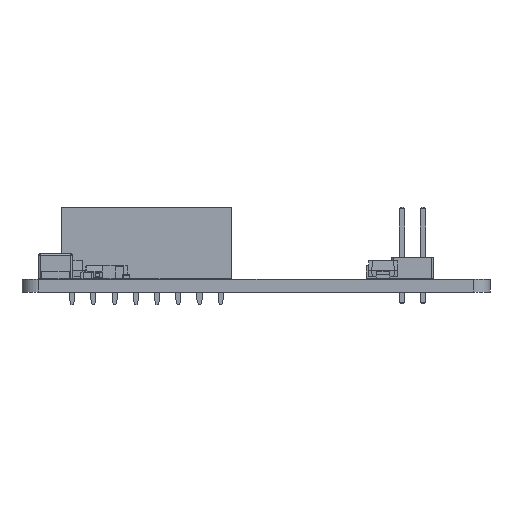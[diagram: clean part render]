
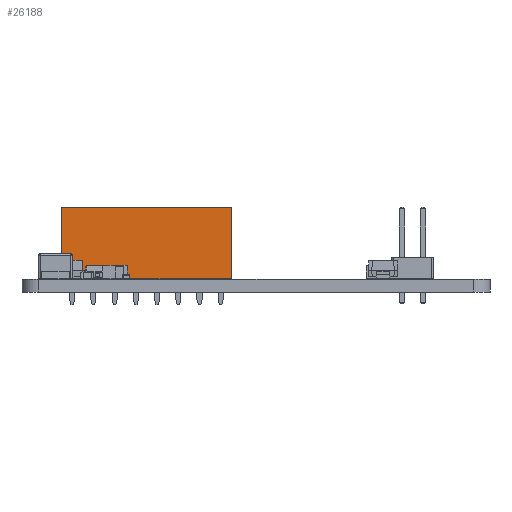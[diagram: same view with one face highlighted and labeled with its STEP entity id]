
A CAD part, left-side view. The second image highlights one B-rep face of the part: STEP entity #26188.
In plain terms, the highlighted planar face has unit normal (-1, 0, 0).
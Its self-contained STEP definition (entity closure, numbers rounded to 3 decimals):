
#24365 = VERTEX_POINT('',#24366);
#24366 = CARTESIAN_POINT('',(-3.81,-19.05,0.));
#24374 = EDGE_CURVE('',#24365,#24375,#24377,.T.);
#24375 = VERTEX_POINT('',#24376);
#24376 = CARTESIAN_POINT('',(-3.81,-19.05,8.5));
#24377 = LINE('',#24378,#24379);
#24378 = CARTESIAN_POINT('',(-3.81,-19.05,0.));
#24379 = VECTOR('',#24380,1.);
#24380 = DIRECTION('',(0.,0.,1.));
#24437 = VERTEX_POINT('',#24438);
#24438 = CARTESIAN_POINT('',(-3.81,1.27,8.5));
#24444 = EDGE_CURVE('',#24445,#24437,#24447,.T.);
#24445 = VERTEX_POINT('',#24446);
#24446 = CARTESIAN_POINT('',(-3.81,1.27,0.));
#24447 = LINE('',#24448,#24449);
#24448 = CARTESIAN_POINT('',(-3.81,1.27,0.));
#24449 = VECTOR('',#24450,1.);
#24450 = DIRECTION('',(0.,0.,1.));
#24509 = EDGE_CURVE('',#24437,#24375,#24510,.T.);
#24510 = LINE('',#24511,#24512);
#24511 = CARTESIAN_POINT('',(-3.81,1.27,8.5));
#24512 = VECTOR('',#24513,1.);
#24513 = DIRECTION('',(0.,-1.,0.));
#25076 = EDGE_CURVE('',#24445,#24365,#25077,.T.);
#25077 = LINE('',#25078,#25079);
#25078 = CARTESIAN_POINT('',(-3.81,1.27,0.));
#25079 = VECTOR('',#25080,1.);
#25080 = DIRECTION('',(0.,-1.,0.));
#26188 = ADVANCED_FACE('',(#26189),#26195,.F.);
#26189 = FACE_BOUND('',#26190,.F.);
#26190 = EDGE_LOOP('',(#26191,#26192,#26193,#26194));
#26191 = ORIENTED_EDGE('',*,*,#24444,.T.);
#26192 = ORIENTED_EDGE('',*,*,#24509,.T.);
#26193 = ORIENTED_EDGE('',*,*,#24374,.F.);
#26194 = ORIENTED_EDGE('',*,*,#25076,.F.);
#26195 = PLANE('',#26196);
#26196 = AXIS2_PLACEMENT_3D('',#26197,#26198,#26199);
#26197 = CARTESIAN_POINT('',(-3.81,1.27,0.));
#26198 = DIRECTION('',(1.,0.,0.));
#26199 = DIRECTION('',(0.,-1.,0.));
